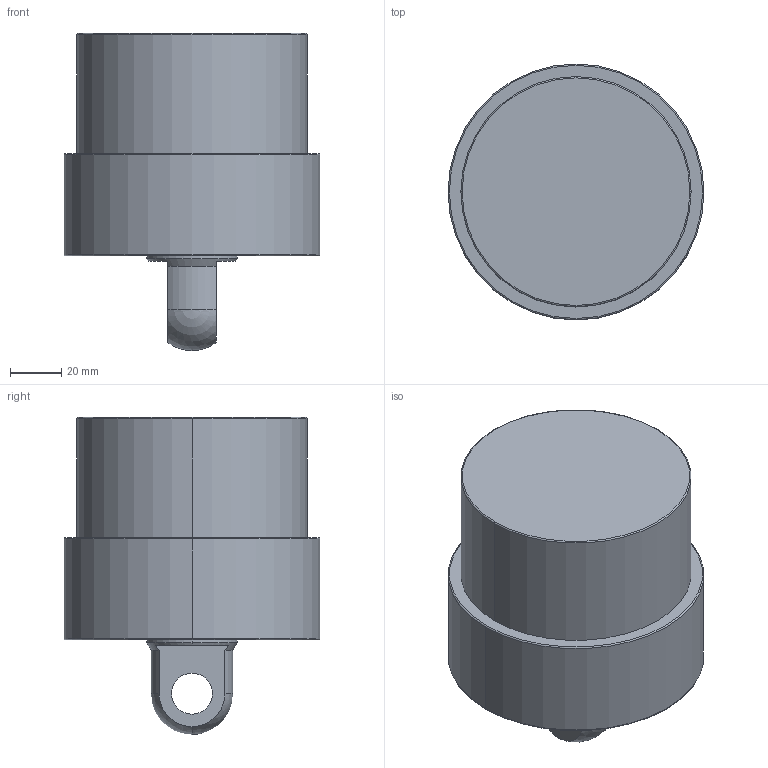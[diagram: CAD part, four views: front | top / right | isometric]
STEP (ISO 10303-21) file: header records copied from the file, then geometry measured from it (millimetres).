
FILE_DESCRIPTION (( 'STEP AP203' ), '1' );
FILE_NAME ('CLLU-090CP-025.STEP', '2020-01-13T03:13:09', ( '' ), ( '' ), 'SwSTEP 2.0', 'SolidWorks 2015', '' );
FILE_SCHEMA (( 'CONFIG_CONTROL_DESIGN' ));
Length unit declared in the file: millimetre
Products named in the file (1): CLLU-090CP-025
Bounding box: 100 x 100 x 124 mm (x, y, z)
Volume: 622844.2 mm3; surface area: 47423.8 mm2
Topology: 1 solids, 1 shells, 57 faces, 134 edges, 77 vertices
Faces by surface type: cylinder 22, cone 18, plane 9, torus 6, sphere 2
Entity records: 1643 total; most frequent: DIRECTION 308, CARTESIAN_POINT 267, ORIENTED_EDGE 244, AXIS2_PLACEMENT_3D 132, EDGE_CURVE 122, VERTEX_POINT 75, CIRCLE 74, EDGE_LOOP 67
